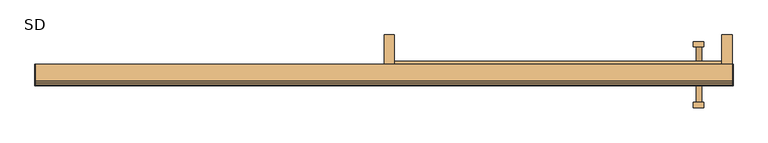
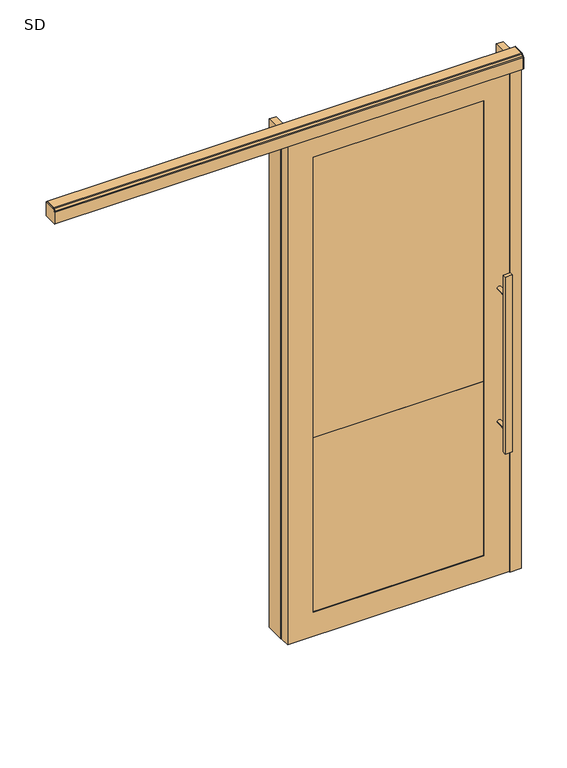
"""IFC4 building model written with IfcOpenShell, lengths in millimetres: door geometry, Mobiliário_Mobiliário de Escritório_Porta Simples de Correr Mista Vidro Duplo- SD_Marelli : SD."""

import ifcopenshell
import ifcopenshell.guid

model = None  # the IFC model being written
_history = None  # IfcOwnerHistory: only IFC2X3 demands one
_inside = {}  # id of a spatial element -> (the spatial element, [elements in it])
_under = {}  # id of a project, library or spatial element -> (it, [spatial elements below it])
_declared = {}  # id of a project -> (the project, [libraries it declares])
_typed = {}  # id of a type object -> (the type object, [elements of that type])
_made_of = {}  # id of a material, layer set ... -> (it, [elements and type objects made of it])


def new_model(schema):
    """Start an empty IFC model of exactly this schema.

    Asked for "IFC4X3", IfcOpenShell would pick the latest addendum, in which some entities
    have other attributes; the version numbers below select the first issue.
    IFC2X3 requires an IfcOwnerHistory on every rooted entity: one is made here for all.
    """
    global model, _history
    if schema == "IFC4X3":
        model = ifcopenshell.file(schema_version=(4, 3, 0, 0))
    else:
        model = ifcopenshell.file(schema=schema)
    _inside.clear()
    _under.clear()
    _declared.clear()
    _typed.clear()
    _made_of.clear()
    _history = None
    if model.schema == "IFC2X3":
        org = make("IfcOrganization", Name="unknown")
        user = make(
            "IfcPersonAndOrganization",
            ThePerson=make("IfcPerson", FamilyName="unknown"),
            TheOrganization=org,
        )
        app = make(
            "IfcApplication",
            ApplicationDeveloper=org,
            Version="unknown",
            ApplicationFullName="unknown",
            ApplicationIdentifier="unknown",
        )
        _history = make(
            "IfcOwnerHistory",
            OwningUser=user,
            OwningApplication=app,
            ChangeAction="ADDED",
            CreationDate=0,
        )
    return model


def make(cls, **values):
    """One entity of the class cls with the attributes given. An attribute that is None is left unset."""
    return model.create_entity(
        cls, **{name: value for name, value in values.items() if value is not None}
    )


def rooted(cls, **values):
    """An entity with a GlobalId (a new one), such as an element, a storey or a relation."""
    return make(cls, GlobalId=ifcopenshell.guid.new(), OwnerHistory=_history, **values)


def si_unit(unit_type, name, prefix=None):
    """IfcSIUnit, for example si_unit("LENGTHUNIT", "METRE", prefix="MILLI")."""
    return make("IfcSIUnit", UnitType=unit_type, Prefix=prefix, Name=name)


def assignment(units):
    """IfcUnitAssignment: the units of a project."""
    return None if units is None else make("IfcUnitAssignment", Units=units)


def point(xyz):
    """IfcCartesianPoint."""
    return None if xyz is None else make("IfcCartesianPoint", Coordinates=xyz)


def direction(xyz):
    """IfcDirection."""
    return None if xyz is None else make("IfcDirection", DirectionRatios=xyz)


def frame(location, z_axis=None, x_axis=None):
    """IfcAxis2Placement3D, a coordinate frame: its origin and axes. An axis left out is left unset."""
    return make(
        "IfcAxis2Placement3D",
        Location=point(location),
        Axis=direction(z_axis),
        RefDirection=direction(x_axis),
    )


def frame_2d(location, x_axis=None):
    """IfcAxis2Placement2D, a coordinate frame in the plane: its origin and x axis."""
    return make(
        "IfcAxis2Placement2D", Location=point(location), RefDirection=direction(x_axis)
    )


def origin():
    """The frame at (0, 0, 0) with its axes left unset."""
    return frame((0.0, 0.0, 0.0))


def origin_with_axes():
    """The frame at (0, 0, 0) with the z axis (0, 0, 1) and the x axis (1, 0, 0) written out."""
    return frame((0.0, 0.0, 0.0), z_axis=(0.0, 0.0, 1.0), x_axis=(1.0, 0.0, 0.0))


def place(relative_to, where):
    """IfcLocalPlacement: puts the frame where relative to a parent placement (None: the world)."""
    return make(
        "IfcLocalPlacement", PlacementRelTo=relative_to, RelativePlacement=where
    )


def context(
    kind, dimensions, precision=None, world=None, true_north=None, identifier=None
):
    """IfcGeometricRepresentationContext, for example the 3D "Model" context."""
    return make(
        "IfcGeometricRepresentationContext",
        ContextIdentifier=identifier,
        ContextType=kind,
        CoordinateSpaceDimension=dimensions,
        Precision=precision,
        WorldCoordinateSystem=world,
        TrueNorth=true_north,
    )


def project(units=None, contexts=None):
    """IfcProject with its units and contexts."""
    return rooted(
        "IfcProject",
        Name="project",
        RepresentationContexts=contexts,
        UnitsInContext=assignment(units),
    )


def spatial(cls, under=None, at=None, **own):
    """A site, building, storey or space (cls), placed at a placement, below another one or the project."""
    s = rooted(cls, ObjectPlacement=at, **own)
    if under is not None:
        _under.setdefault(under.id(), (under, []))[1].append(s)
    return s


def polyline(points):
    """IfcPolyline through the points."""
    return make("IfcPolyline", Points=[point(p) for p in points])


def circle_curve(where, radius):
    """IfcCircle in the frame where."""
    return make("IfcCircle", Position=where, Radius=radius)


def trimmed(basis, trim1, trim2, sense, master):
    """IfcTrimmedCurve: the piece of a basis curve between two trims."""
    return make(
        "IfcTrimmedCurve",
        BasisCurve=basis,
        Trim1=trim1,
        Trim2=trim2,
        SenseAgreement=sense,
        MasterRepresentation=master,
    )


def segment(curve, same_sense, transition):
    """IfcCompositeCurveSegment."""
    return make(
        "IfcCompositeCurveSegment",
        Transition=transition,
        SameSense=same_sense,
        ParentCurve=curve,
    )


def composite_curve(segments, self_intersect=None):
    """IfcCompositeCurve: segments joined end to end."""
    return make("IfcCompositeCurve", Segments=segments, SelfIntersect=self_intersect)


def outline(outer, holes=None, kind="AREA"):
    """IfcArbitraryClosedProfileDef: a profile drawn as a closed curve; with holes, ...WithVoids."""
    if holes is None:
        return make("IfcArbitraryClosedProfileDef", ProfileType=kind, OuterCurve=outer)
    return make(
        "IfcArbitraryProfileDefWithVoids",
        ProfileType=kind,
        OuterCurve=outer,
        InnerCurves=holes,
    )


def extrude(swept, where, along, depth):
    """IfcExtrudedAreaSolid: the profile swept, set in the frame where, extruded along a direction by depth."""
    return make(
        "IfcExtrudedAreaSolid",
        SweptArea=swept,
        Position=where,
        ExtrudedDirection=direction(along),
        Depth=depth,
    )


def shape(context_of_items, identifier, shape_type, items):
    """IfcShapeRepresentation: the items that make up one representation, for example the "Body"."""
    return make(
        "IfcShapeRepresentation",
        ContextOfItems=context_of_items,
        RepresentationIdentifier=identifier,
        RepresentationType=shape_type,
        Items=items,
    )


def source(mapping_origin, context_of_items, identifier, shape_type, items):
    """IfcRepresentationMap: a shape defined once, which mapped items show again and again."""
    return make(
        "IfcRepresentationMap",
        MappingOrigin=mapping_origin,
        MappedRepresentation=shape(context_of_items, identifier, shape_type, items),
    )


def transform(
    local_origin,
    x_axis=None,
    y_axis=None,
    z_axis=None,
    scale=None,
    scale2=None,
    scale3=None,
    uniform=True,
):
    """IfcCartesianTransformationOperator3D, or its non-uniform kind. x_axis, y_axis, z_axis: its Axis1, 2, 3."""
    if uniform:
        return make(
            "IfcCartesianTransformationOperator3D",
            Axis1=direction(x_axis),
            Axis2=direction(y_axis),
            LocalOrigin=point(local_origin),
            Scale=scale,
            Axis3=direction(z_axis),
        )
    return make(
        "IfcCartesianTransformationOperator3DnonUniform",
        Axis1=direction(x_axis),
        Axis2=direction(y_axis),
        LocalOrigin=point(local_origin),
        Scale=scale,
        Axis3=direction(z_axis),
        Scale2=scale2,
        Scale3=scale3,
    )


def mapped(mapping_source, mapping_target):
    """IfcMappedItem: shows the shape of a source again, moved by a transform."""
    return make(
        "IfcMappedItem", MappingSource=mapping_source, MappingTarget=mapping_target
    )


def made_of(thing, what):
    """Note that an element or type object is made of a material, layer set ...; save() writes the relation."""
    if what is not None:
        _made_of.setdefault(what.id(), (what, []))[1].append(thing)
    return thing


def element(
    cls,
    number,
    at=None,
    inside=None,
    cuts=None,
    type_object=None,
    material=None,
    context=None,
    identifier="Body",
    shape_type=None,
    held_by="IfcProductDefinitionShape",
    body=None,
    shapes=None,
    **own,
):
    """One element of the class cls, such as IfcWall. Its Tag is "e" and its number.

    at: its placement. inside: the storey or other place that contains it. cuts: it is an
    opening in that element (IfcRelVoidsElement). A single representation is given by context,
    identifier, shape_type and body (its items); several are given by shapes. held_by: the class
    of the entity that holds the representations. save() writes the other relations.
    """
    e = rooted(cls, Tag="e%d" % number, ObjectPlacement=at, **own)
    if body is not None:
        shapes = [shape(context, identifier, shape_type, body)]
    if shapes is not None:
        e.Representation = make(held_by, Representations=shapes)
    if inside is not None:
        _inside.setdefault(inside.id(), (inside, []))[1].append(e)
    if cuts is not None:
        rooted(
            "IfcRelVoidsElement", RelatingBuildingElement=cuts, RelatedOpeningElement=e
        )
    if type_object is not None:
        _typed.setdefault(type_object.id(), (type_object, []))[1].append(e)
    return made_of(e, material)


def aggregate(whole, parts):
    """IfcRelAggregates: a whole, such as a stair, and the parts it consists of."""
    return rooted("IfcRelAggregates", RelatingObject=whole, RelatedObjects=parts)


def save(model, path):
    """Write the relations noted so far, then the file.

    IfcRelAggregates (storeys below a building ...), IfcRelContainedInSpatialStructure (elements
    in a storey), IfcRelDefinesByType, IfcRelAssociatesMaterial and IfcRelDeclares: one each for
    every whole, place, type object, material and project.
    """
    for whole, parts in _under.values():
        aggregate(whole, parts)
    for where, things in _inside.values():
        rooted(
            "IfcRelContainedInSpatialStructure",
            RelatedElements=things,
            RelatingStructure=where,
        )
    for kind, things in _typed.values():
        rooted("IfcRelDefinesByType", RelatedObjects=things, RelatingType=kind)
    for what, things in _made_of.values():
        rooted("IfcRelAssociatesMaterial", RelatedObjects=things, RelatingMaterial=what)
    for by, libraries in _declared.values():
        rooted("IfcRelDeclares", RelatingContext=by, RelatedDefinitions=libraries)
    model.write(path)


def sd_dbddfbeb(model_context):
    return source(origin(), model_context, "Body", "SweptSolid", [
        extrude(outline(polyline([(-500.0, -15.0), (-470.0, -15.0), (-470.0, -100.0), (-500.0, -100.0), (-500.0, -15.0)])), origin_with_axes(), (0.0, 0.0, 1.0), 2300.0),
        extrude(outline(polyline([(500.0, -15.0), (500.0, -100.0), (470.0, -100.0), (470.0, -15.0), (500.0, -15.0)])), origin_with_axes(), (0.0, 0.0, 1.0), 2300.0),
        extrude(outline(polyline([(500.0, -100.0), (500.0, -150.0), (450.0, -150.0), (450.0, -100.0), (500.0, -100.0)])), origin_with_axes(), (0.0, 0.0, 1.0), 2280.0),
        extrude(outline(polyline([(388.9, -223.7), (388.9, -208.7), (418.9, -208.7), (418.9, -223.7), (388.9, -223.7)])), frame((0.0, 0.0, 600.0), z_axis=(0.0, 0.0, 1.0), x_axis=(1.0, 0.0, 0.0)), (0.0, 0.0, 1.0), 800.0),
        extrude(outline(composite_curve([segment(trimmed(circle_curve(frame_2d((698.0, 405.0278633)), 8.0), [point((698.0, 397.0278633))], [point((698.0, 413.0278633))], False, "CARTESIAN"), True, "CONTINUOUS"), segment(trimmed(circle_curve(frame_2d((698.0, 405.0278633)), 8.0), [point((698.0, 413.0278633))], [point((698.0, 397.0278633))], False, "CARTESIAN"), True, "CONTINUOUS")], self_intersect=False)), frame((0.0, -208.7, 0.0), z_axis=(0.0, 1.0, 0.0), x_axis=(0.0, 0.0, 1.0)), (0.0, 0.0, 1.0), 58.7),
        extrude(outline(composite_curve([segment(trimmed(circle_curve(frame_2d((1302.0, 405.0278633)), 8.0), [point((1302.0, 397.0278633))], [point((1302.0, 413.0278633))], False, "CARTESIAN"), True, "CONTINUOUS"), segment(trimmed(circle_curve(frame_2d((1302.0, 405.0278633)), 8.0), [point((1302.0, 413.0278633))], [point((1302.0, 397.0278633))], False, "CARTESIAN"), True, "CONTINUOUS")], self_intersect=False)), frame((0.0, -208.7, 0.0), z_axis=(0.0, 1.0, 0.0), x_axis=(0.0, 0.0, 1.0)), (0.0, 0.0, 1.0), 58.7),
        extrude(outline(polyline([(388.9, -34.3), (418.9, -34.3), (418.9, -49.3), (388.9, -49.3), (388.9, -34.3)])), frame((0.0, 0.0, 600.0), z_axis=(0.0, 0.0, 1.0), x_axis=(1.0, 0.0, 0.0)), (0.0, 0.0, 1.0), 800.0),
        extrude(outline(composite_curve([segment(trimmed(circle_curve(frame_2d((698.0, 405.0278633)), 8.0), [point((698.0, 397.0278633))], [point((698.0, 413.0278633))], False, "CARTESIAN"), True, "CONTINUOUS"), segment(trimmed(circle_curve(frame_2d((698.0, 405.0278633)), 8.0), [point((698.0, 413.0278633))], [point((698.0, 397.0278633))], False, "CARTESIAN"), True, "CONTINUOUS")], self_intersect=False)), frame((0.0, -108.0, 0.0), z_axis=(0.0, 1.0, 0.0), x_axis=(0.0, 0.0, 1.0)), (0.0, 0.0, 1.0), 58.7),
        extrude(outline(composite_curve([segment(trimmed(circle_curve(frame_2d((1302.0, 405.0278633)), 8.0), [point((1302.0, 397.0278633))], [point((1302.0, 413.0278633))], False, "CARTESIAN"), True, "CONTINUOUS"), segment(trimmed(circle_curve(frame_2d((1302.0, 405.0278633)), 8.0), [point((1302.0, 413.0278633))], [point((1302.0, 397.0278633))], False, "CARTESIAN"), True, "CONTINUOUS")], self_intersect=False)), frame((0.0, -108.0, 0.0), z_axis=(0.0, 1.0, 0.0), x_axis=(0.0, 0.0, 1.0)), (0.0, 0.0, 1.0), 58.7),
        extrude(outline(polyline([(2280.0, -500.0), (3.0, -500.0), (3.0, 450.0), (2280.0, 450.0), (2280.0, -500.0)]), holes=[polyline([(2170.0, 340.0), (113.0, 340.0), (113.0, -390.0), (2170.0, -390.0), (2170.0, 340.0)])]), frame((0.0, -150.0, 0.0), z_axis=(0.0, 1.0, 0.0), x_axis=(0.0, 0.0, 1.0)), (0.0, 0.0, 1.0), 42.0),
        extrude(outline(polyline([(340.0, -147.5), (-390.0, -147.5), (-390.0, -141.5), (340.0, -141.5), (340.0, -147.5)])), frame((0.0, 0.0, 900.0), z_axis=(0.0, 0.0, 1.0), x_axis=(1.0, 0.0, 0.0)), (0.0, 0.0, 1.0), 1270.0),
        extrude(outline(polyline([(-390.0, -110.5), (340.0, -110.5), (340.0, -116.5), (-390.0, -116.5), (-390.0, -110.5)])), frame((0.0, 0.0, 900.0), z_axis=(0.0, 0.0, 1.0), x_axis=(1.0, 0.0, 0.0)), (0.0, 0.0, 1.0), 1270.0),
        extrude(outline(polyline([(470.0, -90.0), (470.0, -100.0), (-470.0, -100.0), (-470.0, -90.0), (470.0, -90.0)])), frame((0.0, 0.0, 2270.0), z_axis=(0.0, 0.0, 1.0), x_axis=(1.0, 0.0, 0.0)), (0.0, 0.0, 1.0), 30.0),
        extrude(outline(composite_curve([segment(polyline([(-100.0, 2280.0), (-103.7, 2280.0), (-103.7, 2288.4), (-118.3, 2288.4), (-118.3, 2316.9), (-142.2, 2316.9), (-142.2, 2288.4), (-156.1, 2288.4), (-156.1, 2264.2), (-161.3, 2264.2), (-161.3, 2316.3833057)]), True, "CONTINUOUS"), segment(trimmed(circle_curve(frame_2d((-154.7488615, 2316.4864296)), 6.5519502), [point((-161.3, 2316.3833057))], [point((-159.3082964, 2321.1917036))], False, "CARTESIAN"), True, "CONTINUOUS"), segment(polyline([(-159.3082964, 2321.1917036), (-153.2917036, 2327.2082964)]), True, "CONTINUOUS"), segment(trimmed(circle_curve(frame_2d((-148.5864296, 2322.6488615)), 6.5519502), [point((-153.2917036, 2327.2082964))], [point((-148.4833057, 2329.2))], False, "CARTESIAN"), True, "CONTINUOUS"), segment(polyline([(-148.4833057, 2329.2), (-100.0, 2329.2), (-100.0, 2280.0)]), True, "CONTINUOUS")], self_intersect=False)), frame((-1500.0, 0.0, 0.0), z_axis=(1.0, 0.0, 0.0), x_axis=(0.0, 1.0, 0.0)), (0.0, 0.0, 1.0), 2000.0),
        extrude(outline(composite_curve([segment(polyline([(-100.0, 2264.2), (-161.3, 2264.2), (-161.3, 2316.3833057)]), True, "CONTINUOUS"), segment(trimmed(circle_curve(frame_2d((-154.7488615, 2316.4864296)), 6.5519502), [point((-161.3, 2316.3833057))], [point((-159.3082964, 2321.1917036))], False, "CARTESIAN"), True, "CONTINUOUS"), segment(polyline([(-159.3082964, 2321.1917036), (-153.2917036, 2327.2082964)]), True, "CONTINUOUS"), segment(trimmed(circle_curve(frame_2d((-148.5864296, 2322.6488615)), 6.5519502), [point((-153.2917036, 2327.2082964))], [point((-148.4833057, 2329.2))], False, "CARTESIAN"), True, "CONTINUOUS"), segment(polyline([(-148.4833057, 2329.2), (-100.0, 2329.2), (-100.0, 2264.2)]), True, "CONTINUOUS")], self_intersect=False)), frame((500.0, 0.0, 0.0), z_axis=(1.0, 0.0, 0.0), x_axis=(0.0, 1.0, 0.0)), (0.0, 0.0, 1.0), 3.0),
        extrude(outline(composite_curve([segment(polyline([(-100.0, 2264.2), (-161.3, 2264.2), (-161.3, 2316.3833057)]), True, "CONTINUOUS"), segment(trimmed(circle_curve(frame_2d((-154.7488615, 2316.4864296)), 6.5519502), [point((-161.3, 2316.3833057))], [point((-159.3082964, 2321.1917036))], False, "CARTESIAN"), True, "CONTINUOUS"), segment(polyline([(-159.3082964, 2321.1917036), (-153.2917036, 2327.2082964)]), True, "CONTINUOUS"), segment(trimmed(circle_curve(frame_2d((-148.5864296, 2322.6488615)), 6.5519502), [point((-153.2917036, 2327.2082964))], [point((-148.4833057, 2329.2))], False, "CARTESIAN"), True, "CONTINUOUS"), segment(polyline([(-148.4833057, 2329.2), (-100.0, 2329.2), (-100.0, 2264.2)]), True, "CONTINUOUS")], self_intersect=False)), frame((-1503.0, 0.0, 0.0), z_axis=(1.0, 0.0, 0.0), x_axis=(0.0, 1.0, 0.0)), (0.0, 0.0, 1.0), 3.0),
        extrude(outline(polyline([(340.0, -147.5), (-390.0, -147.5), (-390.0, -110.5), (340.0, -110.5), (340.0, -147.5)])), frame((0.0, 0.0, 113.0), z_axis=(0.0, 0.0, 1.0), x_axis=(1.0, 0.0, 0.0)), (0.0, 0.0, 1.0), 787.0),
    ])


if __name__ == "__main__":
    model = new_model("IFC4")
    model_context = context("Model", 3, world=origin())
    ifc_project = project(units=[si_unit("LENGTHUNIT", "METRE", prefix="MILLI")], contexts=[model_context])
    site = spatial("IfcSite", under=ifc_project)
    building = spatial("IfcBuilding", under=site)
    placement = place(None, origin())
    sd_shape = sd_dbddfbeb(model_context)
    element("IfcDoor", 1, ObjectType="Mobiliário_Mobiliário de Escritório_Porta Simples de Correr Mista Vidro Duplo- SD_Marelli : SD", at=placement, inside=building, context=model_context, shape_type="MappedRepresentation", body=[
        mapped(sd_shape, transform((0.0, 0.0, 0.0), x_axis=(1.0, 0.0, 0.0), y_axis=(0.0, 1.0, 0.0), z_axis=(0.0, 0.0, 1.0))),
    ])
    save(model, "model.ifc")
